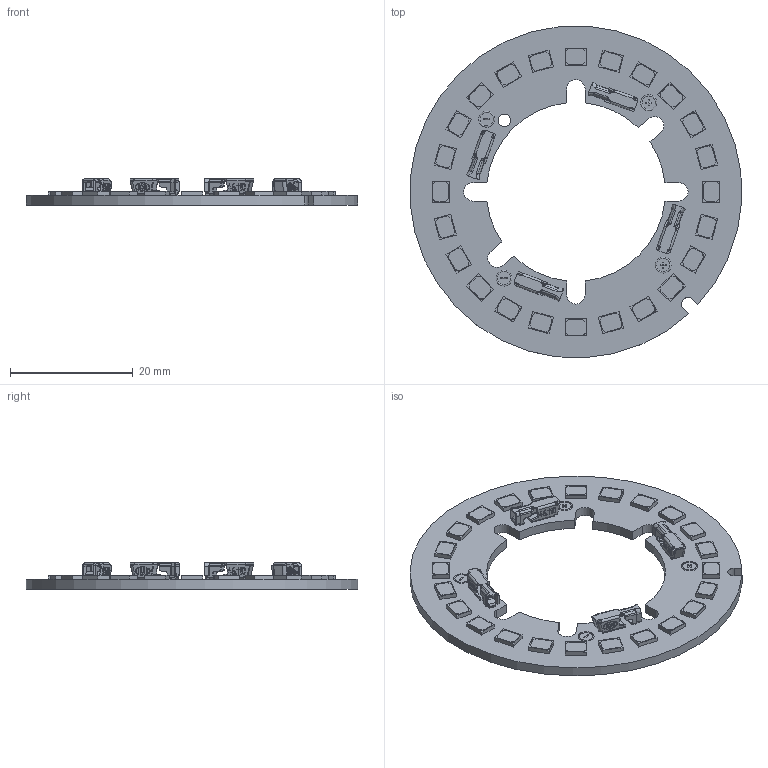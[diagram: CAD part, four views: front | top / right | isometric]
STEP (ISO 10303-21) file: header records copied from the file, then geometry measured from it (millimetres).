
FILE_DESCRIPTION(/* description */ ('Unknown'),/* implementation_level */ '2;1');
FILE_NAME(/* name */ 'RdLED 54.2mm 2x12 2835 sh-000 2026-02-02',/* time_stamp */ '2026-02-02T08:53:17+01:00',/* author */ ('Unknown'),/* organization */ ('Unknown'),/* preprocessor_version */ 'ST-DEVELOPER v18.102',/* originating_system */ 'Solid Edge',/* authorisation */ 'Unknown');
FILE_SCHEMA (('AUTOMOTIVE_DESIGN {1 0 10303 214 3 1 1}'));
Length unit declared in the file: millimetre
Products named in the file (1): RdLED 54
Bounding box: 54.07 x 54.07 x 4.3 mm (x, y, z)
Volume: 2719.7 mm3; surface area: 4283.6 mm2
Topology: 1 solids, 1 shells, 1381 faces, 3835 edges, 2550 vertices
Faces by surface type: plane 964, cylinder 319, bspline 64, torus 20, sphere 10, cone 4
Full cylindrical faces by diameter (mm): 2.05 x1
Entity records: 58625 total; most frequent: CARTESIAN_POINT 14984, ORIENTED_EDGE 7612, DIRECTION 6012, EDGE_CURVE 3806, LINE 2732, VECTOR 2732, VERTEX_POINT 2536, AXIS2_PLACEMENT_3D 1640
